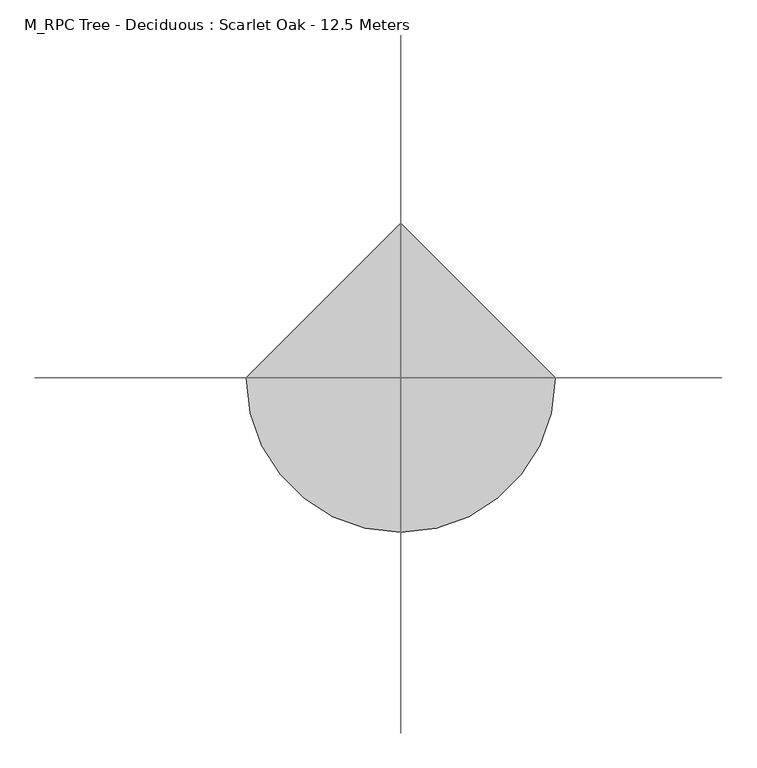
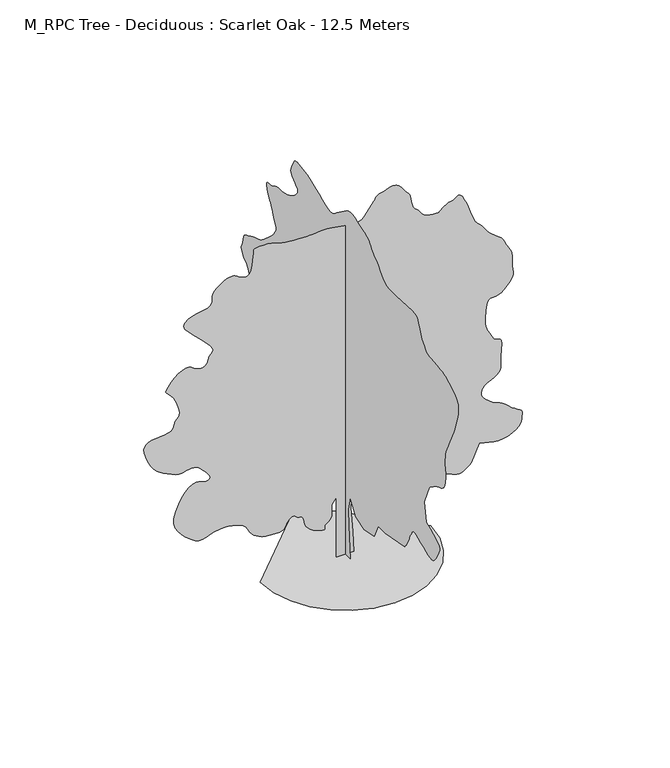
"""IFC4 building model written with IfcOpenShell, lengths in millimetres: geographic element geometry, M_RPC Tree - Deciduous : Scarlet Oak - 12.5 Meters."""

from ifc_helpers import new_model, si_unit, origin, place, context, project, spatial, triangles, source, transform, mapped, element, save


def m_rpc_tree_deciduous_scarlet_oak_12_5_meters_13b38d7d(model_context):
    return source(origin(), model_context, "Body", "Tessellation", [
        triangles([(0.0172504, 306.0074844, 0.0), (0.0172504, -293.5650026, 0.0), (0.0172504, -196.8600042, 1141.1199549), (0.0172504, -177.5184886, 1682.6674953), (0.0172504, -293.5650026, 2185.5349113), (0.0172504, -603.0224945, 1682.6674953), (0.0172504, -1105.8875124, 1527.9400211), (0.0172504, -1686.1174301, 1663.3275421), (0.0172504, -1918.2099495, 2146.8525341), (0.0172504, -2324.3725124, 2146.8525341), (0.0172504, -3446.1498253, 2359.6049549), (0.0172504, -3487.4249222, 2409.394939), (0.0172504, -3527.7000801, 2459.5225479), (0.0172504, -3565.9250725, 2510.3249702), (0.0172504, -3601.0999603, 2562.1500046), (0.0172504, -3632.2248047, 2615.3249565), (0.0172504, -3658.2749588, 2670.2000954), (0.0172504, -3678.2499023, 2727.0748215), (0.0172504, -3697.649881, 2785.6750237), (0.0172504, -3722.1248405, 2845.2748741), (0.0172504, -3750.8248329, 2905.7249634), (0.0172504, -3782.89991, 2966.8500114), (0.0172504, -3817.5248314, 3028.475029), (0.0172504, -3853.8249413, 3090.4500252), (0.0172504, -3890.9999977, 3152.5750122), (0.0172504, -3908.7000801, 3172.6499496), (0.0172504, -3933.1750397, 3188.8498329), (0.0172504, -3971.1750458, 3197.2499016), (0.0172504, -4029.4749756, 3193.9748108), (0.0172504, -4114.8499969, 3175.1500877), (0.0172504, -4234.0499886, 3136.8498093), (0.0172504, -4393.8498276, 3075.2250824), (0.0172504, -4562.5749939, 3002.6998581), (0.0172504, -4706.2499451, 2937.9750298), (0.0172504, -4828.2750549, 2886.4249786), (0.0172504, -4932.0251175, 2853.4999535), (0.0172504, -5020.8999252, 2844.5999153), (0.0172504, -5098.249855, 2865.1248253), (0.0172504, -5167.4996979, 2920.4999336), (0.0172504, -5237.3750839, 3007.7248421), (0.0172504, -5309.5997452, 3113.9000473), (0.0172504, -5377.0996948, 3229.5499649), (0.0172504, -5432.7497864, 3345.1998825), (0.0172504, -5469.4498718, 3451.3750877), (0.0172504, -5480.1248016, 3538.6249947), (0.0172504, -5457.6250122, 3597.424894), (0.0172504, -5402.6498795, 3641.6998077), (0.0172504, -5323.3000717, 3691.0249947), (0.0172504, -5223.6747574, 3744.5999222), (0.0172504, -5107.774855, 3801.5499344), (0.0172504, -4979.7251129, 3861.0500816), (0.0172504, -4843.5499947, 3922.224836), (0.0172504, -4703.3248329, 3984.2498291), (0.0172504, -4587.2749397, 4641.8498062), (0.0172504, -4877.3749649, 5318.7747665), (0.0172504, -4886.5249878, 5331.7001404), (0.0172504, -4900.7247025, 5347.4747589), (0.0172504, -4925.0999588, 5369.0251877), (0.0172504, -4964.6748688, 5399.20009), (0.0172504, -5024.5497025, 5440.8498734), (0.0172504, -5109.8247299, 5496.8999405), (0.0172504, -5225.5246445, 5570.225116), (0.0172504, -5351.0501221, 5636.6501312), (0.0172504, -5462.3497238, 5680.0498077), (0.0172504, -5559.4501923, 5715.3499786), (0.0172504, -5642.3497833, 5757.424736), (0.0172504, -5711.0246613, 5821.1499161), (0.0172504, -5765.4998245, 5921.4001923), (0.0172504, -5805.7496933, 6073.0746552), (0.0172504, -5829.0500153, 6222.0498642), (0.0172504, -5835.7501877, 6317.5748474), (0.0172504, -5830.6249191, 6379.6001312), (0.0172504, -5818.3750854, 6428.1000778), (0.0172504, -5803.7748138, 6483.0246323), (0.0172504, -5791.5499786, 6564.3249023), (0.0172504, -5786.4247101, 6691.9996674), (0.0172504, -5788.2251816, 6832.849791), (0.0172504, -5796.1246994, 6949.6746368), (0.0172504, -5813.8247818, 7056.3751007), (0.0172504, -5845.0496201, 7166.7747574), (0.0172504, -5893.550148, 7294.7750839), (0.0172504, -5963.0249771, 7454.2496521), (0.0172504, -6057.1750443, 7659.049942), (0.0172504, -6146.5748199, 7844.1746887), (0.0172504, -6206.1746704, 7955.8748474), (0.0172504, -6246.4751175, 8024.9497009), (0.0172504, -6277.9999374, 8082.1746964), (0.0172504, -6311.2246536, 8158.3496979), (0.0172504, -6356.599791, 8284.2751511), (0.0172504, -6424.6747055, 8490.6997604), (0.0172504, -6498.0248795, 8729.4997192), (0.0172504, -6547.3747742, 8935.1499573), (0.0172504, -6565.2498459, 9112.3746048), (0.0172504, -6544.199968, 9265.925116), (0.0172504, -6476.8250107, 9400.5250397), (0.0172504, -6355.6498489, 9520.8996689), (0.0172504, -6173.2249374, 9631.8248749), (0.0172504, -5996.2246948, 9723.0001236), (0.0172504, -5879.7998245, 9785.7747803), (0.0172504, -5799.2250916, 9827.2001587), (0.0172504, -5729.799678, 9854.4496582), (0.0172504, -5646.85009, 9874.575174), (0.0172504, -5525.6749283, 9894.699527), (0.0172504, -5341.575119, 9921.9501892), (0.0172504, -5144.0999634, 9943.4244598), (0.0172504, -4990.9500092, 9951.725116), (0.0172504, -4869.5998581, 9962.0244873), (0.0172504, -4767.5499825, 9989.5995483), (0.0172504, -4672.2499855, 10049.6493713), (0.0172504, -4571.2000488, 10157.425351), (0.0172504, -4451.8750648, 10328.0998169), (0.0172504, -4347.6750298, 10515.7499908), (0.0172504, -4286.1000092, 10666.5500885), (0.0172504, -4245.8498497, 10783.8243256), (0.0172504, -4205.5749825, 10871.0003998), (0.0172504, -4143.9999619, 10931.4501984), (0.0172504, -4039.7999268, 10968.5502594), (0.0172504, -3871.650016, 10985.7003754), (0.0172504, -2943.2749969, 10927.6748474), (0.0172504, -2772.1499771, 10930.6746643), (0.0172504, -2632.8250511, 10930.2746887), (0.0172504, -2514.4500092, 10937.3242584), (0.0172504, -2406.244986, 10962.6250397), (0.0172504, -2297.3599171, 11017.0496246), (0.0172504, -2176.9724979, 11111.3752625), (0.0172504, -2034.2549011, 11256.4745453), (0.0172504, -1896.7275398, 11403.0249023), (0.0172504, -1793.7049038, 11502.8746216), (0.0172504, -1717.0749882, 11568.5752625), (0.0172504, -1658.7124168, 11612.6248993), (0.0172504, -1610.5024235, 11647.5250946), (0.0172504, -1564.3199226, 11685.7995026), (0.0172504, -1512.0500027, 11739.9996826), (0.0172504, -1461.8649845, 11803.9992645), (0.0172504, -1420.8125484, 11863.6002777), (0.0172504, -1379.087479, 11919.1503754), (0.0172504, -1326.8724976, 11970.9495392), (0.0172504, -1254.3574471, 12019.4000702), (0.0172504, -1151.7299904, 12064.7996246), (0.0172504, -1009.182514, 12107.4749268), (0.0172504, -849.1549999, 12154.4999634), (0.0172504, -699.9524792, 12206.6002716), (0.0172504, -560.5600064, 12254.6496643), (0.0172504, -429.9675053, 12289.4998627), (0.0172504, -307.1549798, 12302.0246796), (0.0172504, -191.1079934, 12283.0746735), (0.0172504, -80.8134993, 12223.5248199), (0.0172504, 499.4174812, 11798.0252106), (0.0172504, 562.2325061, 11740.8496307), (0.0172504, 623.0199657, 11688.7493225), (0.0172504, 689.217524, 11646.7751404), (0.0172504, 768.2749804, 11620.0500275), (0.0172504, 867.6299623, 11613.6248383), (0.0172504, 994.7275097, 11632.5748444), (0.0172504, 1157.0125168, 11681.9753174), (0.0172504, 1341.1749676, 11755.3243286), (0.0172504, 1526.6899521, 11837.8251068), (0.0172504, 1710.1749733, 11922.0246185), (0.0172504, 1888.2475342, 12000.4500641), (0.0172504, 2057.5249924, 12065.6995697), (0.0172504, 2214.6199093, 12110.3003357), (0.0172504, 2356.1550201, 12126.8249084), (0.0172504, 2484.8875694, 12135.849939), (0.0172504, 2604.4750374, 12156.3742676), (0.0172504, 2712.9248131, 12178.575238), (0.0172504, 2808.1498146, 12192.6743774), (0.0172504, 2888.1748718, 12188.8501923), (0.0172504, 2950.9248207, 12157.2753754), (0.0172504, 2994.400074, 12088.1249451), (0.0172504, 3033.2500282, 12001.2500153), (0.0172504, 3077.8499222, 11921.1246735), (0.0172504, 3119.7499809, 11845.0502472), (0.0172504, 3150.4998482, 11770.3245758), (0.0172504, 3161.6000427, 11694.2745667), (0.0172504, 3144.6249161, 11614.1503876), (0.0172504, 3091.124984, 11527.2498779), (0.0172504, 3009.2500397, 11447.6245056), (0.0172504, 2921.5998665, 11385.2492432), (0.0172504, 2841.4248184, 11331.3502075), (0.0172504, 2781.8749649, 11277.1000305), (0.0172504, 2756.1750801, 11213.7248291), (0.0172504, 2777.4749428, 11132.4251404), (0.0172504, 2859.0249069, 11024.3747589), (0.0172504, 2971.6250107, 10916.724353), (0.0172504, 3077.7999252, 10838.2000763), (0.0172504, 3178.2249001, 10782.3), (0.0172504, 3273.574894, 10742.6745117), (0.0172504, 3364.5248657, 10712.8251709), (0.0172504, 3451.7750633, 10686.4000397), (0.0172504, 3535.9498672, 10656.8995148), (0.0172504, 3620.024968, 10634.1753204), (0.0172504, 3706.4749237, 10626.6746155), (0.0172504, 3795.2750267, 10625.9502411), (0.0172504, 3886.4499847, 10623.5248077), (0.0172504, 3979.9997978, 10610.9499939), (0.0172504, 4075.9250473, 10579.7495728), (0.0172504, 4174.1998627, 10521.5252197), (0.0172504, 4275.775058, 10469.7993073), (0.0172504, 4375.6250679, 10451.2492767), (0.0172504, 4464.9998451, 10446.8995422), (0.0172504, 4535.0999268, 10437.8245148), (0.0172504, 4577.0999794, 10405.075351), (0.0172504, 4582.2249573, 10329.6753021), (0.0172504, 4541.6998146, 10192.7243591), (0.0172504, 4481.7999825, 10048.5994354), (0.0172504, 4432.0748199, 9951.4995483), (0.0172504, 4388.424868, 9882.1247131), (0.0172504, 4346.824791, 9821.224942), (0.0172504, 4303.174839, 9749.4996689), (0.0172504, 4253.4249687, 9647.6750702), (0.0172504, 4193.5498444, 9496.4499985), (0.0172504, 4130.2749275, 9347.6997757), (0.0172504, 4075.8250534, 9253.7496964), (0.0172504, 4034.1999779, 9195.999733), (0.0172504, 4009.500032, 9155.8498581), (0.0172504, 4005.7749687, 9114.7000443), (0.0172504, 4027.0998299, 9053.8996857), (0.0172504, 4077.4999512, 8954.8999146), (0.0172504, 4167.2249977, 8823.6747849), (0.0172504, 4293.1248711, 8684.3501495), (0.0172504, 4439.3499573, 8545.349913), (0.0172504, 4589.9500671, 8415.1497208), (0.0172504, 4729.0750053, 8302.1996384), (0.0172504, 4840.7748734, 8214.9747299), (0.0172504, 4909.1747681, 8161.9000626), (0.0172504, 4969.9001312, 8128.6997635), (0.0172504, 5061.0747986, 8095.1500671), (0.0172504, 5170.5250946, 8060.9248306), (0.0172504, 5286.0750183, 8025.6746567), (0.0172504, 5395.524733, 7989.0751465), (0.0172504, 5486.6999817, 7950.8001572), (0.0172504, 5547.4247635, 7910.4747116), (0.0172504, 5598.275148, 7876.9750122), (0.0172504, 5663.0246841, 7853.2997131), (0.0172504, 5734.1749924, 7830.2999542), (0.0172504, 5804.3247803, 7798.8251312), (0.0172504, 5866.0250839, 7749.7746368), (0.0172504, 5911.8001968, 7673.9746124), (0.0172504, 5934.2499893, 7562.325032), (0.0172504, 5952.6250305, 7450.1749008), (0.0172504, 5984.1998474, 7370.8500916), (0.0172504, 6018.4750809, 7312.1496048), (0.0172504, 6044.9996246, 7261.899765), (0.0172504, 6053.224704, 7207.9501511), (0.0172504, 6032.699794, 7138.074765), (0.0172504, 5972.9249542, 7040.1249298), (0.0172504, 5898.7248322, 6948.3747162), (0.0172504, 5838.7250061, 6893.5251572), (0.0172504, 5788.2001831, 6857.9500031), (0.0172504, 5742.4000717, 6824.0497467), (0.0172504, 5696.6249588, 6774.2498795), (0.0172504, 5646.1001358, 6690.9747299), (0.0172504, 5586.0997284, 6556.5997925), (0.0172504, 5520.6996506, 6421.9998688), (0.0172504, 5460.6998245, 6337.1498154), (0.0172504, 5411.5249191, 6283.0746277), (0.0172504, 5378.6001846, 6240.824881), (0.0172504, 5367.3247101, 6191.4999847), (0.0172504, 5383.09991, 6116.0999359), (0.0172504, 5431.3748703, 5995.7247253), (0.0172504, 5495.5000259, 5864.0496231), (0.0172504, 5555.8748291, 5761.8250488), (0.0172504, 5613.5747955, 5680.5747757), (0.0172504, 5669.5498672, 5611.8249023), (0.0172504, 5724.8749786, 5547.1497803), (0.0172504, 5780.5250702, 5478.0749268), (0.0172504, 5837.5250793, 5396.1496948), (0.0172504, 5903.6751114, 5315.3499756), (0.0172504, 5980.6500641, 5249.4249298), (0.0172504, 6060.324852, 5189.6000931), (0.0172504, 6134.5999695, 5127.0498413), (0.0172504, 6195.3247513, 5053.0247086), (0.0172504, 6234.3996918, 4958.6746536), (0.0172504, 6243.6997055, 4835.2499199), (0.0172504, 6251.5248093, 4738.3250221), (0.0172504, 6280.349794, 4706.349939), (0.0172504, 6313.2251129, 4704.825032), (0.0172504, 6333.2500534, 4699.249791), (0.0172504, 6323.4750687, 4655.0998695), (0.0172504, 6267.0500244, 4537.8750481), (0.0172504, 6146.999794, 4313.0498177), (0.0172504, 6021.4748978, 4060.8748032), (0.0172504, 5945.6998718, 3875.3750793), (0.0172504, 5898.3248566, 3742.6250427), (0.0172504, 5858.0749878, 3648.7999557), (0.0172504, 5803.5998245, 3580.0000854), (0.0172504, 5713.6000854, 3522.3748238), (0.0172504, 5566.7747452, 3462.0500175), (0.0172504, 5397.2496277, 3413.0998077), (0.0172504, 5248.0500137, 3392.5748978), (0.0172504, 5111.0246567, 3390.9999939), (0.0172504, 4978.0746323, 3398.8998024), (0.0172504, 4841.0498566, 3406.7749031), (0.0172504, 4691.8499519, 3405.1999992), (0.0172504, 4522.3498329, 3384.6750893), (0.0172504, 4353.2999771, 3366.3000481), (0.0172504, 4207.2498802, 3370.249807), (0.0172504, 4078.7998718, 3385.7000267), (0.0172504, 3962.5249924, 3401.8249146), (0.0172504, 3853.0249901, 3407.7998405), (0.0172504, 3744.8749054, 3392.799884), (0.0172504, 3632.6500694, 3345.9998337), (0.0172504, 3525.249939, 3296.2499634), (0.0172504, 3436.4248375, 3270.1998093), (0.0172504, 3368.249929, 3253.6249489), (0.0172504, 3322.75009, 3232.3250862), (0.0172504, 3301.9499062, 3192.0499283), (0.0172504, 3307.8748352, 3118.6500481), (0.0172504, 3342.5500443, 2997.8498634), (0.0172504, 3398.4748283, 2869.5248474), (0.0172504, 3465.5748024, 2778.7248665), (0.0172504, 3542.0000793, 2719.2500084), (0.0172504, 3625.8499031, 2684.8000763), (0.0172504, 3715.274968, 2669.1248703), (0.0172504, 3808.4248055, 2665.9500641), (0.0172504, 3903.4248207, 2669.0498749), (0.0172504, 4270.9250633, 2262.8999565), (0.0172504, 4299.7250496, 2217.1674282), (0.0172504, 4327.3498169, 2170.5925095), (0.0172504, 4352.6250183, 2122.3249615), (0.0172504, 4374.3248566, 2071.5174522), (0.0172504, 4391.2999832, 2017.3299168), (0.0172504, 4402.3498901, 1958.9124069), (0.0172504, 4406.2999397, 1895.4199162), (0.0172504, 4405.6249809, 1829.2200325), (0.0172504, 4400.8999786, 1763.6974331), (0.0172504, 4388.0248924, 1699.5299835), (0.0172504, 4362.9999664, 1637.3900265), (0.0172504, 4321.7248695, 1577.9574623), (0.0172504, 4260.1498489, 1521.9075405), (0.0172504, 4174.1998627, 1469.9175453), (0.0172504, 4092.2249245, 1425.7650078), (0.0172504, 4034.5999535, 1391.4249527), (0.0172504, 3985.4250481, 1364.8674168), (0.0172504, 3928.800016, 1344.0599659), (0.0172504, 3848.8499542, 1326.9749622), (0.0172504, 3729.6499626, 1311.5799717), (0.0172504, 3555.2998489, 1295.8475018), (0.0172504, 3356.9750359, 1298.1024513), (0.0172504, 3174.2248535, 1332.8375404), (0.0172504, 3003.6500908, 1392.27243), (0.0172504, 2841.8750816, 1468.6199501), (0.0172504, 2685.525032, 1554.1049938), (0.0172504, 2531.1748604, 1640.9424259), (0.0172504, 2375.4949734, 1721.3500179), (0.0172504, 2236.6674007, 1794.4849434), (0.0172504, 2129.3049133, 1863.5599422), (0.0172504, 2044.6099377, 1926.8850014), (0.0172504, 1973.7875164, 1982.7650208), (0.0172504, 1908.0399307, 2029.5099873), (0.0172504, 1838.5700432, 2065.4300331), (0.0172504, 1756.5824604, 2088.8299129), (0.0172504, 1666.4174698, 2108.5649002), (0.0172504, 1577.6074837, 2133.0375343), (0.0172504, 1489.134977, 2159.8799366), (0.0172504, 1399.9875114, 2186.7200134), (0.0172504, 1309.1449459, 2211.1925022), (0.0172504, 1215.5974583, 2230.9274895), (0.0172504, 1118.3299942, 2243.5575325), (0.0172504, 1018.8625191, 2250.1549496), (0.0172504, 919.3925005, 2253.7074944), (0.0172504, 819.9249527, 2254.7224033), (0.0172504, 720.4574776, 2253.7074944), (0.0172504, 620.9900024, 2251.1700039), (0.0172504, 521.5199839, 2247.6174591), (0.0172504, 422.0525087, 2243.5575325), (0.0172504, 228.6430025, 1953.4425373), (0.0172504, 189.960498, 1508.5999226), (280.4450004, 0.0006008, 0.0092122), (-299.78499, 0.0006008, 0.0092122), (-299.78499, 0.0004756, 2127.5199932), (-454.5149895, 0.0004756, 1914.7698978), (-454.5149895, 0.0005007, 1682.6775238), (-450.962481, 0.0005007, 1628.8274677), (-450.962481, 0.0005007, 1575.1449886), (-458.0674979, 0.0005007, 1521.8024597), (-475.8274967, 0.0005257, 1468.967458), (-507.8000001, 0.0005257, 1416.8100311), (-557.5350094, 0.0005257, 1365.4949947), (-628.5824896, 0.0005257, 1315.1974834), (-684.2375227, 0.0005257, 1262.982502), (-699.6325132, 0.0005257, 1210.0899456), (-696.0799685, 0.0005257, 1162.9524885), (-694.8950117, 0.0005257, 1127.990015), (-717.3950191, 0.0005257, 1111.6374521), (-784.8899546, 0.0005257, 1120.3224598), (-918.6974848, 0.0005257, 1160.4700092), (-1071.3399845, 0.0005257, 1223.0050003), (-1185.4124548, 0.0005257, 1293.6575191), (-1267.3424103, 0.0005257, 1371.0799736), (-1323.5625252, 0.0005257, 1453.9124176), (-1360.49748, 0.0005007, 1540.8049335), (-1384.5749348, 0.0005007, 1630.4049877), (-1402.2250202, 0.0005007, 1721.359901), (-1406.7349194, 0.0005007, 1746.1124599), (-1413.4449749, 0.0005007, 1770.1899147), (-1424.5524364, 0.0005007, 1792.9174519), (-1442.2599312, 0.0005007, 1813.6099388), (-1468.7599125, 0.0005007, 1831.5975037), (-1506.2599491, 0.0005007, 1846.2024261), (-1556.9524944, 0.0005007, 1856.747422), (-1607.6450397, 0.0005007, 1874.1124958), (-1647.509903, 0.0005007, 1903.3224861), (-1682.3024014, 0.0004756, 1934.8999191), (-1717.7700039, 0.0004756, 1959.3724079), (-1759.6674465, 0.0004756, 1967.2674202), (-1813.7424889, 0.0004756, 1949.1099529), (-1885.7500122, 0.0005007, 1895.4274738), (-1949.0724552, 0.0005007, 1820.3199944), (-1984.9925011, 0.0005007, 1746.902528), (-2011.0999191, 0.0005007, 1679.2374722), (-2044.9875309, 0.0005007, 1621.382428), (-2104.2525181, 0.0005007, 1577.402409), (-2206.4824699, 0.0005007, 1551.3499294), (-2369.2750042, 0.0005007, 1547.2900028), (-2549.149926, 0.0005007, 1559.2449417), (-2695.2000229, 0.0005007, 1578.979929), (-2813.8250496, 0.0005007, 1607.1750103), (-2911.4999016, 0.0005007, 1644.5025284), (-2994.6250603, 0.0005007, 1691.6425289), (-3069.5998444, 0.0005007, 1749.2724415), (-3142.9250198, 0.0005007, 1818.0648994), (-3205.1000038, 0.0005007, 1893.5100037), (-3249.7248962, 0.0004756, 1969.2975288), (-3287.549913, 0.0004756, 2043.389954), (-3329.4499718, 0.0004756, 2113.7624027), (-3386.2249947, 0.0004756, 2178.3824409), (-3468.7249008, 0.0004756, 2235.2224308), (-3587.7499031, 0.0004756, 2282.2499382), (-3707.4248657, 0.0004756, 2317.9974655), (-3794.2497986, 0.0004506, 2343.2600224), (-3862.8249733, 0.0004506, 2359.3875263), (-3927.674794, 0.0004506, 2367.7325111), (-4003.3248276, 0.0004506, 2369.6499813), (-4104.3750549, 0.0004506, 2366.4924706), (-4245.3498802, 0.0004506, 2359.6125126), (-4400.3500122, 0.0004506, 2335.1974331), (-4538.1250328, 0.0004756, 2289.8050003), (-4665.0498436, 0.0004756, 2240.3524956), (-4787.5749229, 0.0004756, 2203.7574909), (-4912.1501678, 0.0004756, 2196.9349422), (-5045.1501892, 0.0004756, 2236.7999508), (-5193.0498825, 0.0004506, 2340.272414), (-5347.7997391, 0.0004506, 2478.6475433), (-5490.6747391, 0.0004506, 2615.9999153), (-5612.2498764, 0.0004256, 2758.4499413), (-5703.0251495, 0.0004256, 2912.049868), (-5753.5499725, 0.0004256, 3082.8999046), (-5754.3499237, 0.0004005, 3277.0999695), (-5695.9250015, 0.0004005, 3500.7249825), (-5598.1501556, 0.0003755, 3726.2748779), (-5489.1998291, 0.0003755, 3919.6999901), (-5372.1499969, 0.0003505, 4077.2499664), (-5250.0248932, 0.0003505, 4195.2000343), (-5125.8499146, 0.0003505, 4269.8498383), (-5002.6998734, 0.0003505, 4297.4998947), (-4883.6001663, 0.0003505, 4274.3748528), (-4771.2750458, 0.0003505, 4235.4749016), (-4671.8250114, 0.0003505, 4218.8750427), (-4593.3248611, 0.0003505, 4225.6499199), (-4543.9249695, 0.0003505, 4256.7750549), (-4531.7498405, 0.0003505, 4313.2748039), (-4564.899852, 0.0003505, 4396.1749763), (-4651.4997986, 0.0003254, 4506.4749298), (-4752.500029, 0.0003254, 4617.0998634), (-4829.4749817, 0.0003254, 4702.3498924), (-4891.5496811, 0.0003254, 4765.2748306), (-4947.8747314, 0.0003254, 4808.9247826), (-5007.6001556, 0.0003254, 4836.3248543), (-5079.8248169, 0.0003004, 4850.5498581), (-5173.7248993, 0.0003004, 4854.5999016), (-5270.0248352, 0.0003254, 4845.5248741), (-5349.7751999, 0.0003254, 4824.5999886), (-5422.3998367, 0.0003254, 4801.3249557), (-5497.39991, 0.0003254, 4785.1247818), (-5584.2248428, 0.0003254, 4785.5250481), (-5692.3746368, 0.0003254, 4811.9748871), (-5831.3248764, 0.0003004, 4873.9498833), (-5978.7751785, 0.0003004, 4948.0997177), (-6108.6248108, 0.0003004, 5012.4248611), (-6224.624707, 0.0003004, 5078.4748993), (-6330.4496429, 0.0003004, 5157.6997147), (-6429.8749695, 0.0003004, 5261.5997681), (-6526.574881, 0.0002754, 5401.7249359), (-6624.2997299, 0.0002754, 5589.5750977), (-6705.1000305, 0.0002503, 5784.4998276), (-6749.6996338, 0.0002503, 5941.2001465), (-6759.8001801, 0.0002503, 6064.0746231), (-6737.074823, 0.0002253, 6157.4997345), (-6683.2246216, 0.0002253, 6225.8996292), (-6599.9500534, 0.0002253, 6273.6496216), (-6488.899855, 0.0002253, 6305.1750229), (-6357.7997177, 0.0002253, 6323.2750809), (-6219.2750336, 0.0002253, 6333.9500107), (-6082.3996674, 0.0002253, 6346.2748398), (-5956.3748016, 0.0002253, 6369.4501694), (-5850.3248795, 0.0002253, 6412.5998611), (-5773.3499268, 0.0002253, 6484.8251038), (-5734.5999664, 0.0002003, 6595.2997559), (-5705.9749695, 0.0002003, 6701.9746399), (-5661.749762, 0.0002003, 6771.4500504), (-5614.8497177, 0.0002003, 6825.699646), (-5578.0746368, 0.0002003, 6886.6999924), (-5564.3248947, 0.0001752, 6976.4747452), (-5586.4247086, 0.0001752, 7116.9998886), (-5657.2500366, 0.0001752, 7330.2496628), (-5757.5497284, 0.0001502, 7540.2996323), (-5853.4746872, 0.0001502, 7672.5247009), (-5935.8498917, 0.0001502, 7750.975145), (-5995.5747345, 0.0001252, 7799.6250824), (-6023.4747757, 0.0001252, 7842.5247894), (-6010.4499893, 0.0001252, 7903.7251236), (-5947.3497711, 0.0001252, 8007.1996216), (-5845.6501648, 0.0001252, 8136.3248795), (-5728.0247864, 0.0001001, 8253.9496765), (-5602.2749039, 0.0001001, 8353.3000076), (-5476.1750427, 0.0001001, 8427.6251221), (-5357.5497253, 0.0001001, 8470.1248535), (-5254.1246429, 0.0001001, 8474.0746124), (-5173.7248993, 0.0001001, 8432.6998123), (-5094.9000595, 0.0001001, 8371.00009), (-4997.8001724, 0.0001001, 8322.8501221), (-4892.5751999, 0.0001001, 8294.6500992), (-4789.3748131, 0.0001001, 8292.8496277), (-4698.3748444, 0.0001001, 8323.8750595), (-4629.6999664, 0.0001001, 8394.1248413), (-4593.4998505, 0.0001001, 8510.0497421), (-4560.3248405, 0.0001001, 8620.5749725), (-4508.224823, 7.51e-05, 8686.1000427), (-4458.4999512, 7.51e-05, 8730.2996704), (-4432.4497971, 7.51e-05, 8776.8747345), (-4451.3998032, 7.51e-05, 8849.4999527), (-4536.6498322, 7.51e-05, 8971.8750412), (-4709.5500343, 5.01e-05, 9167.6497192), (-4926.3498825, 5.01e-05, 9388.7995926), (-5120.1496811, 2.5e-05, 9575.0998489), (-5277.4249649, 2.5e-05, 9731.9745758), (-5384.5998184, 2.5e-05, 9864.8246063), (-5428.2000641, 0.0, 9979.0746094), (-5394.6497864, 0.0, 10080.1254181), (-5270.4248108, 0.0, 10173.3743774), (-5104.7500397, 0.0, 10245.2246429), (-4956.3497955, 0.0, 10286.2744629), (-4825.8749107, 0.0, 10308.3742767), (-4714.0000534, -2.5e-05, 10323.3745239), (-4621.3998917, -2.5e-05, 10343.1000641), (-4548.7749641, -2.5e-05, 10379.4245911), (-4496.7749405, -2.5e-05, 10444.1497101), (-4470.8500694, -2.5e-05, 10520.7252686), (-4466.9000198, -2.5e-05, 10587.8246613), (-4471.4000359, -2.5e-05, 10650.1999237), (-4470.8500694, -2.5e-05, 10712.5751862), (-4451.6747864, -5.01e-05, 10779.6745789), (-4400.3500122, -5.01e-05, 10856.2501373), (-4303.3748268, -5.01e-05, 10947.0248291), (-4184.6748047, -5.01e-05, 11036.8495789), (-4076.1250351, -5.01e-05, 11106.7243835), (-3976.0500389, -7.51e-05, 11155.5993073), (-3882.7249214, -7.51e-05, 11182.4999908), (-3794.4750755, -7.51e-05, 11186.3997528), (-3709.6000237, -7.51e-05, 11166.2498199), (-3626.4498665, -5.01e-05, 11121.1002502), (-3540.7248665, -5.01e-05, 11065.9001312), (-3452.3250298, -5.01e-05, 11022.8748505), (-3365.6000908, -5.01e-05, 11001.8249725), (-3284.9500717, -5.01e-05, 11012.5998962), (-3214.7999931, -5.01e-05, 11064.9746063), (-3159.5498772, -7.51e-05, 11168.7996643), (-3123.5750381, -7.51e-05, 11333.8500549), (-3102.0998955, -7.51e-05, 11511.0752838), (-3086.6999634, -0.0001001, 11648.0250641), (-3076.3750122, -0.0001001, 11749.4746857), (-3070.1248123, -0.0001001, 11820.1250244), (-3066.9000092, -0.0001001, 11864.7246277), (-3065.7250809, -0.0001001, 11888.0243683), (-3065.5500916, -0.0001001, 11894.7251221), (-3040.1248993, -0.0001001, 11898.674881), (-2971.0500458, -0.0001001, 11907.37435), (-2869.1498703, -0.0001001, 11916.0494019), (-2745.2748734, -0.0001001, 11920.0003235), (-2610.2249771, -0.0001001, 11914.4750793), (-2474.8323692, -0.0001001, 11894.7251221), (-2349.9349056, -0.0001001, 11856.0495758), (-2235.4099194, -0.0001001, 11813.024295), (-2120.5474537, -0.0001001, 11781.8494537), (-2000.2725277, -0.0001001, 11760.1251984), (-1869.507399, -0.0001001, 11745.5249268), (-1723.1824642, -0.0001001, 11735.6743652), (-1556.2175102, -0.0001001, 11728.174823), (-1363.5400269, -0.0001001, 11720.6752808), (-1177.5749971, -0.0001001, 11719.599765), (-1024.4249702, -0.0001001, 11728.6747925), (-889.5449764, -0.0001001, 11741.475174), (-758.3875025, -0.0001001, 11751.5745575), (-616.4049625, -0.0001001, 11752.5244995), (-449.0450109, -0.0001001, 11737.9253906), (-241.7632409, -0.0001001, 11701.3252991), (-32.2257492, -0.0001001, 11657.8000488), (136.7124946, -0.0001001, 11627.7995544), (271.8174929, -0.0001001, 11613.0248749), (379.8574825, -0.0001001, 11615.1503265), (467.5974758, -0.0001001, 11635.9246399), (541.8025031, -0.0001001, 11676.9744598), (609.2425, -0.0001001, 11739.9996826), (899.3574589, -0.0001252, 12107.4749268), (942.8899761, -0.0001252, 12164.1493744), (977.6249926, -0.0001252, 12217.4496094), (1008.9749685, -0.0001252, 12266.3245331), (1042.3574512, -0.0001252, 12309.7997864), (1083.1825029, -0.0001252, 12346.8498505), (1136.864982, -0.0001252, 12376.4503693), (1208.8149508, -0.0001252, 12397.6002411), (1297.0049892, -0.0001502, 12421.8499237), (1393.3149536, -0.0001502, 12454.2246918), (1494.0224693, -0.0001502, 12483.8752075), (1595.4100307, -0.0001502, 12499.9998047), (1693.7499584, -0.0001502, 12491.7747253), (1785.3224213, -0.0001502, 12448.349469), (1866.4099136, -0.0001252, 12358.9246948), (1938.4149662, -0.0001252, 12256.9251068), (2004.3324543, -0.0001252, 12177.5752991), (2062.8075188, -0.0001252, 12112.7746033), (2112.4850098, -0.0001252, 12054.4246765), (2152.0125389, -0.0001252, 11994.3748535), (2180.0374271, -0.0001001, 11924.5000488), (2195.2049606, -0.0001001, 11836.6995941), (2205.7499565, -0.0001001, 11745.6993347), (2220.3550243, -0.0001001, 11669.9248901), (2238.3424438, -0.0001001, 11606.8252533), (2259.0349308, -7.51e-05, 11553.8749969), (2281.7599972, -7.51e-05, 11508.5242767), (2305.8374519, -7.51e-05, 11468.274408), (2330.5924816, -7.51e-05, 11430.5499664), (2355.6274361, -7.51e-05, 11413.5742584), (2381.6799156, -7.51e-05, 11394.2242767), (2409.760033, -7.51e-05, 11370.1501648), (2440.8873482, -7.51e-05, 11338.9753235), (2476.0724098, -7.51e-05, 11298.3243164), (2516.3248947, -7.51e-05, 11245.8251953), (2562.6749725, -7.51e-05, 11179.1246155), (2631.3748489, -5.01e-05, 11115.7249969), (2728.4750267, -5.01e-05, 11072.3253204), (2839.7749191, -5.01e-05, 11045.1246552), (2951.0748116, -5.01e-05, 11030.4743866), (3048.1749893, -5.01e-05, 11024.6003265), (3116.8748657, -5.01e-05, 11023.8247925), (3142.9250198, -5.01e-05, 11024.4003387), (3156.2750771, -5.01e-05, 11038.3250702), (3192.9998703, -5.01e-05, 11074.2252045), (3247.9750031, -5.01e-05, 11123.3501129), (3316.1499115, -7.51e-05, 11176.8503357), (3392.4249069, -7.51e-05, 11225.9752441), (3471.7750053, -7.51e-05, 11261.8997955), (3549.0749382, -7.51e-05, 11275.824527), (3618.3750687, -7.51e-05, 11292.800235), (3679.549823, -7.51e-05, 11331.0746429), (3736.3498444, -7.51e-05, 11371.7244873), (3792.4499084, -7.51e-05, 11395.8253418), (3851.6000771, -7.51e-05, 11384.3748779), (3917.5248322, -7.51e-05, 11318.4498322), (3993.9248199, -7.51e-05, 11179.1246155), (4065.8750793, -5.01e-05, 11015.4253052), (4119.5500008, -5.01e-05, 10883.1996552), (4160.3748344, -5.01e-05, 10773.6249481), (4193.7498322, -2.5e-05, 10677.9493927), (4225.0999535, -2.5e-05, 10587.3246918), (4259.8498672, -2.5e-05, 10493.0002167), (4303.3748268, -2.5e-05, 10386.1253448), (4348.1000038, 0.0, 10292.3496735), (4386.3749931, 0.0, 10232.749823), (4423.6500435, 0.0, 10191.7744171), (4465.3248253, 0.0, 10153.824408), (4516.799881, 0.0, 10103.3495819), (4583.4998795, 0.0, 10024.7997253), (4670.850071, 0.0, 9902.6002075), (4778.3749031, 2.5e-05, 9766.6003693), (4896.3999664, 2.5e-05, 9652.9247498), (5016.4501968, 2.5e-05, 9555.474884), (5130.0746567, 5.01e-05, 9468.1999786), (5228.8000259, 5.01e-05, 9384.974826), (5304.2000748, 5.01e-05, 9299.6997986), (5347.7997391, 5.01e-05, 9206.3246841), (5382.0249756, 5.01e-05, 9114.7500412), (5429.774968, 7.51e-05, 9032.6498199), (5483.3001892, 7.51e-05, 8950.5495987), (5534.7749542, 7.51e-05, 8858.9749557), (5576.449736, 7.51e-05, 8748.4747238), (5600.5250107, 0.0001001, 8609.5250656), (5599.22509, 0.0001001, 8432.6998123), (5596.5746704, 0.0001001, 8262.7497208), (5611.174942, 0.0001252, 8138.7997284), (5627.1251312, 0.0001252, 8042.949765), (5628.5500443, 0.0001252, 7957.224765), (5599.5000732, 0.0001252, 7863.7496567), (5524.1250229, 0.0001502, 7744.5249573), (5386.474704, 0.0001502, 7581.6750137), (5223.124791, 0.0001502, 7444.9496384), (5081.4247192, 0.0001502, 7390.0750809), (4961.7000504, 0.0001502, 7378.1746445), (4864.3248894, 0.0001502, 7370.3501221), (4789.5997993, 0.0001752, 7327.6498215), (4737.9000481, 0.0001752, 7211.2249512), (4709.5250359, 0.0001752, 6982.1249817), (4698.9248108, 0.0002003, 6728.5997589), (4700.5250038, 0.0002003, 6550.1751846), (4714.6000168, 0.0002253, 6424.8996918), (4741.5748238, 0.0002253, 6330.7246262), (4781.7249893, 0.0002253, 6245.7001648), (4835.3999107, 0.0002253, 6147.7997452), (4902.950148, 0.0002503, 6015.074707), (4980.0250946, 0.0002503, 5899.6497757), (5057.7999985, 0.0002503, 5847.1500732), (5129.7996735, 0.0002503, 5825.7746338), (5189.6250916, 0.0002503, 5803.7248169), (5230.8499008, 0.0002503, 5749.1996567), (5247.0250763, 0.0002754, 5630.3749329), (5231.7498459, 0.0002754, 5415.4996765), (5210.9999496, 0.0003004, 5178.6001831), (5207.8251434, 0.0003004, 5005.3247131), (5211.4499222, 0.0003004, 4881.0997375), (5210.9999496, 0.0003254, 4791.3999802), (5195.6497238, 0.0003254, 4721.6498772), (5154.5999039, 0.0003254, 4657.3000259), (5077.0249878, 0.0003254, 4583.8248596), (4983.2998947, 0.0003254, 4514.9249954), (4900.3997223, 0.0003254, 4468.3499313), (4827.3248222, 0.0003254, 4435.6498924), (4763.0499664, 0.0003505, 4408.3498146), (4706.5499268, 0.0003505, 4378.0249214), (4656.8250549, 0.0003505, 4336.1748596), (4612.8248337, 0.0003505, 4274.3748528), (4577.8749321, 0.0003505, 4202.8248596), (4558.1249748, 0.0003505, 4135.32491), (4557.0000435, 0.0003505, 4068.8498978), (4577.8749321, 0.0003755, 4000.3250107), (4624.1000175, 0.0003755, 3926.7498505), (4699.0998001, 0.0003755, 3845.024897), (4806.2499458, 0.0003755, 3752.1750412), (4919.7997009, 0.0003755, 3670.8000664), (5016.1246353, 0.0003755, 3617.4998314), (5101.5996506, 0.0004005, 3580.1250778), (5182.6999329, 0.0004005, 3546.4748062), (5265.8000931, 0.0004005, 3504.3500519), (5357.374736, 0.0004005, 3441.5748138), (5463.8246338, 0.0004005, 3345.9998337), (5576.8497116, 0.0004005, 3247.2750458), (5681.0497467, 0.0004005, 3176.6249977), (5772.3999847, 0.0004256, 3124.2249985), (5846.8250931, 0.0004256, 3080.3000633), (5900.2747375, 0.0004256, 3035.0249199), (5928.6997467, 0.0004256, 2978.5748772), (5928.0247879, 0.0004256, 2901.1499519), (5916.924884, 0.0004256, 2813.2500847), (5910.1997131, 0.0004506, 2730.7498878), (5898.0748718, 0.0004506, 2651.975045), (5870.7247971, 0.0004506, 2575.2500771), (5818.350087, 0.0004506, 2498.8349739), (5731.1251785, 0.0004506, 2421.0748947), (5599.22509, 0.0004506, 2340.272414), (5441.7248199, 0.0004756, 2274.8624531), (5284.2501297, 0.0004756, 2240.917432), (5126.7498596, 0.0004756, 2233.1924675), (4969.2501709, 0.0004756, 2246.4425308), (4811.7748993, 0.0004756, 2275.4249187), (4654.2749199, 0.0004756, 2314.8975094), (4496.7749405, 0.0004506, 2359.6125126), (4225.9998985, 0.0005007, 1760.0424236), (4159.6498787, 0.0005007, 1702.5250042), (4092.9248817, 0.0005007, 1648.0549278), (4025.5499245, 0.0005007, 1599.675032), (3957.1500298, 0.0005007, 1560.4274277), (3887.3999268, 0.0005007, 1533.3625099), (3815.9499275, 0.0005007, 1521.5225349), (3742.4750519, 0.0005007, 1527.9499043), (3682.5999275, 0.0005007, 1542.5525013), (3644.6999153, 0.0005007, 1554.7899811), (3617.6498222, 0.0005007, 1567.0274609), (3590.2500412, 0.0005007, 1581.6299126), (3551.3248009, 0.0005007, 1600.9724819), (3489.750071, 0.0005007, 1627.4175247), (3394.3500801, 0.0005007, 1663.3374252), (3270.0748169, 0.0005007, 1715.4949974), (3134.2999649, 0.0005007, 1784.5699963), (2994.450071, 0.0005007, 1863.794957), (2857.9999695, 0.0004756, 1946.4024147), (2732.3500809, 0.0004756, 2025.6275208), (2624.9999474, 0.0004756, 2094.7025196), (2543.3499893, 0.0004756, 2146.8624172), (2474.2123489, 0.0004756, 2192.817461), (2400.0074306, 0.0004756, 2246.8925034), (2321.5699219, 0.0004756, 2307.7374813), (2239.7525322, 0.0004506, 2373.9924488), (2155.3950359, 0.0004506, 2444.3074883), (2069.3475266, 0.0004506, 2517.3248337), (1982.4550106, 0.0004506, 2591.6999451), (1963.1124413, 0.0004256, 2881.8249687), (1576.2924477, 0.0004256, 2920.4999336), (880.0149622, 0.0004256, 2862.474987), (415.8325032, 0.0004506, 2611.0499268), (222.421489, 0.0004756, 2146.8624172), (183.7397477, 0.0005007, 1605.3124786), (241.7622416, 0.0005507, 715.6274672), (-2855.9000977, 0.0, 0.0224297), (-2780.4000549, -654.3849844, 0.0224297), (-2565.3750984, -1255.3350037, 0.0224297), (-2228.0499035, -1785.6274899, 0.0224297), (-1785.6274899, -2228.0499035, 0.0224297), (-1255.3350037, -2565.3750984, 0.0224297), (-654.3849844, -2780.4000549, 0.0224297), (0.0001248, -2855.9000977, 0.0224297), (654.3849844, -2780.4000549, 0.0224297), (1255.3350037, -2565.3750984, 0.0224297), (1785.6274899, -2228.0499035, 0.0224297), (2228.0499035, -1785.6274899, 0.0224297), (2565.3750984, -1255.3350037, 0.0224297), (2780.4000549, -654.3849844, 0.0224297), (2855.9000977, 0.0002503, 0.0224297), (-0.0003745, 2855.9000977, 0.0224297)], [[1, 2, 3], [368, 1, 3], [368, 3, 4], [367, 368, 4], [367, 4, 5], [277, 278, 279], [366, 367, 5], [276, 277, 279], [276, 279, 280], [7, 8, 9], [6, 7, 9], [5, 6, 9], [315, 316, 317], [201, 202, 203], [200, 201, 203], [200, 203, 204], [199, 200, 204], [199, 204, 205], [198, 199, 205], [198, 205, 206], [198, 206, 207], [197, 198, 207], [197, 207, 208], [275, 276, 280], [196, 197, 208], [195, 196, 208], [194, 195, 208], [194, 208, 209], [193, 194, 209], [192, 193, 209], [192, 209, 210], [191, 192, 210], [191, 210, 211], [191, 211, 212], [190, 191, 212], [190, 212, 213], [190, 213, 214], [189, 190, 214], [189, 214, 215], [188, 189, 215], [187, 188, 215], [186, 187, 215], [10, 11, 12], [314, 315, 317], [10, 12, 13], [10, 13, 14], [10, 14, 15], [10, 15, 16], [10, 16, 17], [10, 17, 18], [10, 18, 19], [10, 19, 20], [10, 20, 21], [10, 21, 22], [185, 186, 215], [185, 215, 216], [275, 280, 281], [10, 22, 23], [167, 168, 169], [166, 167, 169], [165, 166, 169], [165, 169, 170], [164, 165, 170], [164, 170, 171], [163, 164, 171], [163, 171, 172], [163, 172, 173], [163, 173, 174], [163, 174, 175], [163, 175, 176], [163, 176, 177], [163, 177, 178], [163, 178, 179], [163, 179, 180], [162, 163, 180], [161, 162, 180], [160, 161, 180], [159, 160, 180], [159, 180, 181], [158, 159, 181], [157, 158, 181], [156, 157, 181], [156, 181, 182], [155, 156, 182], [154, 155, 182], [154, 182, 183], [9, 10, 23], [9, 23, 24], [9, 24, 25], [45, 46, 47], [44, 45, 47], [44, 47, 48], [43, 44, 48], [43, 48, 49], [42, 43, 49], [42, 49, 50], [41, 42, 50], [40, 41, 50], [40, 50, 51], [39, 40, 51], [38, 39, 51], [37, 38, 51], [36, 37, 51], [35, 36, 51], [34, 35, 51], [33, 34, 51], [33, 51, 52], [32, 33, 52], [32, 52, 53], [31, 32, 53], [30, 31, 53], [29, 30, 53], [28, 29, 53], [28, 53, 54], [27, 28, 54], [26, 27, 54], [5, 9, 25], [5, 25, 26], [5, 26, 54], [5, 54, 55], [366, 5, 55], [365, 366, 55], [364, 365, 55], [363, 364, 55], [362, 363, 55], [361, 362, 55], [361, 55, 56], [153, 154, 183], [153, 183, 184], [313, 314, 317], [360, 361, 56], [184, 185, 216], [153, 184, 216], [152, 153, 216], [152, 216, 217], [243, 244, 245], [242, 243, 245], [242, 245, 246], [241, 242, 246], [241, 246, 247], [241, 247, 248], [240, 241, 248], [240, 248, 249], [240, 249, 250], [239, 240, 250], [239, 250, 251], [238, 239, 251], [237, 238, 251], [236, 237, 251], [235, 236, 251], [234, 235, 251], [233, 234, 251], [232, 233, 251], [231, 232, 251], [230, 231, 251], [229, 230, 251], [228, 229, 251], [228, 251, 252], [227, 228, 252], [226, 227, 252], [226, 252, 253], [226, 253, 254], [226, 254, 255], [226, 255, 256], [226, 256, 257], [225, 226, 257], [224, 225, 257], [223, 224, 257], [222, 223, 257], [222, 257, 258], [221, 222, 258], [220, 221, 258], [115, 116, 117], [114, 115, 117], [114, 117, 118], [113, 114, 118], [113, 118, 119], [112, 113, 119], [111, 112, 119], [110, 111, 119], [152, 217, 218], [313, 317, 318], [313, 318, 319], [313, 319, 320], [313, 320, 321], [313, 321, 322], [313, 322, 323], [313, 323, 324], [313, 324, 325], [313, 325, 326], [313, 326, 327], [313, 327, 328], [313, 328, 329], [313, 329, 330], [313, 330, 331], [313, 331, 332], [313, 332, 333], [313, 333, 334], [313, 334, 335], [313, 335, 336], [313, 336, 337], [313, 337, 338], [313, 338, 339], [313, 339, 340], [313, 340, 341], [312, 313, 341], [312, 341, 342], [312, 342, 343], [311, 312, 343], [311, 343, 344], [311, 344, 345], [310, 311, 345], [310, 345, 346], [310, 346, 347], [310, 347, 348], [309, 310, 348], [309, 348, 349], [309, 349, 350], [308, 309, 350], [308, 350, 351], [307, 308, 351], [307, 351, 352], [307, 352, 353], [307, 353, 354], [307, 354, 355], [307, 355, 356], [307, 356, 357], [307, 357, 358], [306, 307, 358], [306, 358, 359], [306, 359, 360], [306, 360, 56], [305, 306, 56], [305, 56, 57], [304, 305, 57], [303, 304, 57], [302, 303, 57], [301, 302, 57], [301, 57, 58], [301, 58, 59], [110, 119, 120], [109, 110, 120], [109, 120, 121], [301, 59, 60], [300, 301, 60], [300, 60, 61], [151, 152, 218], [109, 121, 122], [300, 61, 62], [145, 146, 147], [144, 145, 147], [143, 144, 147], [143, 147, 148], [142, 143, 148], [141, 142, 148], [140, 141, 148], [140, 148, 149], [139, 140, 149], [138, 139, 149], [137, 138, 149], [136, 137, 149], [135, 136, 149], [134, 135, 149], [133, 134, 149], [132, 133, 149], [132, 149, 150], [131, 132, 150], [130, 131, 150], [129, 130, 150], [128, 129, 150], [127, 128, 150], [126, 127, 150], [126, 150, 151], [126, 151, 218], [125, 126, 218], [124, 125, 218], [123, 124, 218], [123, 218, 219], [122, 123, 219], [109, 122, 219], [108, 109, 219], [108, 219, 220], [108, 220, 258], [108, 258, 259], [108, 259, 260], [108, 260, 261], [108, 261, 262], [107, 108, 262], [107, 262, 263], [107, 263, 264], [106, 107, 264], [106, 264, 265], [106, 265, 266], [106, 266, 267], [106, 267, 268], [105, 106, 268], [104, 105, 268], [103, 104, 268], [102, 103, 268], [101, 102, 268], [100, 101, 268], [99, 100, 268], [98, 99, 268], [97, 98, 268], [96, 97, 268], [95, 96, 268], [94, 95, 268], [93, 94, 268], [92, 93, 268], [91, 92, 268], [90, 91, 268], [89, 90, 268], [88, 89, 268], [87, 88, 268], [86, 87, 268], [85, 86, 268], [84, 85, 268], [83, 84, 268], [82, 83, 268], [81, 82, 268], [80, 81, 268], [79, 80, 268], [78, 79, 268], [77, 78, 268], [76, 77, 268], [75, 76, 268], [74, 75, 268], [73, 74, 268], [72, 73, 268], [71, 72, 268], [70, 71, 268], [69, 70, 268], [68, 69, 268], [67, 68, 268], [66, 67, 268], [65, 66, 268], [64, 65, 268], [63, 64, 268], [62, 63, 268], [300, 62, 268], [299, 300, 268], [298, 299, 268], [297, 298, 268], [296, 297, 268], [295, 296, 268], [294, 295, 268], [293, 294, 268], [292, 293, 268], [291, 292, 268], [290, 291, 268], [289, 290, 268], [288, 289, 268], [287, 288, 268], [286, 287, 268], [285, 286, 268], [284, 285, 268], [283, 284, 268], [282, 283, 268], [281, 282, 268], [275, 281, 268], [275, 268, 269], [274, 275, 269], [274, 269, 270], [274, 270, 271], [273, 274, 271], [272, 273, 271], [802, 369, 370], [802, 370, 371], [801, 802, 371], [800, 801, 371], [575, 576, 577], [799, 800, 371], [574, 575, 577], [383, 384, 385], [383, 385, 386], [382, 383, 386], [382, 386, 387], [381, 382, 387], [381, 387, 388], [794, 795, 796], [510, 511, 512], [574, 577, 578], [573, 574, 578], [572, 573, 578], [572, 578, 579], [571, 572, 579], [571, 579, 580], [570, 571, 580], [570, 580, 581], [570, 581, 582], [569, 570, 582], [569, 582, 583], [569, 583, 584], [568, 569, 584], [568, 584, 585], [509, 510, 512], [509, 512, 513], [508, 509, 513], [508, 513, 514], [508, 514, 515], [507, 508, 515], [507, 515, 516], [507, 516, 517], [507, 517, 518], [507, 518, 519], [507, 519, 520], [507, 520, 521], [507, 521, 522], [506, 507, 522], [506, 522, 523], [505, 506, 523], [505, 523, 524], [504, 505, 524], [568, 585, 586], [504, 524, 525], [538, 539, 540], [538, 540, 541], [537, 538, 541], [537, 541, 542], [536, 537, 542], [536, 542, 543], [536, 543, 544], [535, 536, 544], [535, 544, 545], [535, 545, 546], [534, 535, 546], [534, 546, 547], [533, 534, 547], [533, 547, 548], [381, 388, 389], [380, 381, 389], [380, 389, 390], [380, 390, 391], [380, 391, 392], [380, 392, 393], [379, 380, 393], [378, 379, 393], [377, 378, 393], [376, 377, 393], [375, 376, 393], [374, 375, 393], [373, 374, 393], [372, 373, 393], [372, 393, 394], [372, 394, 395], [372, 395, 396], [372, 396, 397], [372, 397, 398], [371, 372, 398], [371, 398, 399], [532, 533, 548], [371, 399, 400], [567, 568, 586], [567, 586, 587], [657, 658, 659], [657, 659, 660], [656, 657, 660], [656, 660, 661], [655, 656, 661], [655, 661, 662], [654, 655, 662], [654, 662, 663], [653, 654, 663], [652, 653, 663], [651, 652, 663], [650, 651, 663], [649, 650, 663], [649, 663, 664], [648, 649, 664], [647, 648, 664], [647, 664, 665], [647, 665, 666], [647, 666, 667], [647, 667, 668], [647, 668, 669], [793, 794, 796], [713, 714, 715], [713, 715, 716], [712, 713, 716], [712, 716, 717], [711, 712, 717], [646, 647, 669], [711, 717, 718], [567, 587, 588], [645, 646, 669], [645, 669, 670], [750, 751, 752], [749, 750, 752], [748, 749, 752], [748, 752, 753], [747, 748, 753], [747, 753, 754], [747, 754, 755], [747, 755, 756], [747, 756, 757], [747, 757, 758], [747, 758, 759], [747, 759, 760], [746, 747, 760], [746, 760, 761], [746, 761, 762], [745, 746, 762], [745, 762, 763], [745, 763, 764], [744, 745, 764], [743, 744, 764], [743, 764, 765], [742, 743, 765], [741, 742, 765], [741, 765, 766], [740, 741, 766], [739, 740, 766], [738, 739, 766], [737, 738, 766], [736, 737, 766], [735, 736, 766], [644, 645, 670], [567, 588, 589], [792, 793, 796], [371, 400, 401], [371, 401, 402], [371, 402, 403], [371, 403, 404], [371, 404, 405], [799, 371, 405], [799, 405, 406], [766, 767, 768], [488, 489, 490], [488, 490, 491], [487, 488, 491], [487, 491, 492], [486, 487, 492], [486, 492, 493], [485, 486, 493], [485, 493, 494], [485, 494, 495], [484, 485, 495], [483, 484, 495], [483, 495, 496], [482, 483, 496], [481, 482, 496], [480, 481, 496], [479, 480, 496], [479, 496, 497], [478, 479, 497], [477, 478, 497], [476, 477, 497], [475, 476, 497], [474, 475, 497], [473, 474, 497], [472, 473, 497], [471, 472, 497], [471, 497, 498], [470, 471, 498], [469, 470, 498], [469, 498, 499], [468, 469, 499], [468, 499, 500], [468, 500, 501], [468, 501, 502], [468, 502, 503], [467, 468, 503], [466, 467, 503], [466, 503, 504], [466, 504, 525], [465, 466, 525], [465, 525, 526], [464, 465, 526], [463, 464, 526], [735, 766, 768], [735, 768, 769], [735, 769, 770], [735, 770, 771], [735, 771, 772], [735, 772, 773], [735, 773, 774], [735, 774, 775], [735, 775, 776], [735, 776, 777], [735, 777, 778], [735, 778, 779], [735, 779, 780], [735, 780, 781], [735, 781, 782], [735, 782, 783], [735, 783, 784], [735, 784, 785], [735, 785, 786], [735, 786, 787], [735, 787, 788], [735, 788, 789], [735, 789, 790], [735, 790, 791], [735, 791, 792], [735, 792, 796], [734, 735, 796], [733, 734, 796], [732, 733, 796], [731, 732, 796], [731, 796, 797], [730, 731, 797], [567, 589, 590], [455, 456, 457], [454, 455, 457], [453, 454, 457], [453, 457, 458], [452, 453, 458], [451, 452, 458], [451, 458, 459], [450, 451, 459], [449, 450, 459], [448, 449, 459], [447, 448, 459], [446, 447, 459], [445, 446, 459], [444, 445, 459], [443, 444, 459], [442, 443, 459], [441, 442, 459], [440, 441, 459], [439, 440, 459], [438, 439, 459], [437, 438, 459], [437, 459, 460], [436, 437, 460], [435, 436, 460], [434, 435, 460], [434, 460, 461], [433, 434, 461], [432, 433, 461], [431, 432, 461], [430, 431, 461], [429, 430, 461], [428, 429, 461], [428, 461, 462], [427, 428, 462], [411, 412, 413], [411, 413, 414], [410, 411, 414], [410, 414, 415], [409, 410, 415], [409, 415, 416], [409, 416, 417], [408, 409, 417], [408, 417, 418], [408, 418, 419], [408, 419, 420], [408, 420, 421], [408, 421, 422], [408, 422, 423], [408, 423, 424], [408, 424, 425], [408, 425, 426], [407, 408, 426], [407, 426, 427], [407, 427, 462], [406, 407, 462], [799, 406, 462], [799, 462, 463], [799, 463, 526], [798, 799, 526], [798, 526, 527], [798, 527, 528], [798, 528, 529], [798, 529, 530], [798, 530, 531], [797, 798, 531], [730, 797, 531], [729, 730, 531], [728, 729, 531], [728, 531, 532], [728, 532, 548], [728, 548, 549], [728, 549, 550], [727, 728, 550], [726, 727, 550], [725, 726, 550], [724, 725, 550], [723, 724, 550], [722, 723, 550], [721, 722, 550], [720, 721, 550], [719, 720, 550], [718, 719, 550], [711, 718, 550], [710, 711, 550], [709, 710, 550], [708, 709, 550], [707, 708, 550], [706, 707, 550], [705, 706, 550], [704, 705, 550], [703, 704, 550], [702, 703, 550], [701, 702, 550], [701, 550, 551], [701, 551, 552], [701, 552, 553], [701, 553, 554], [701, 554, 555], [701, 555, 556], [701, 556, 557], [701, 557, 558], [701, 558, 559], [700, 701, 559], [699, 700, 559], [698, 699, 559], [697, 698, 559], [696, 697, 559], [617, 618, 619], [616, 617, 619], [615, 616, 619], [615, 619, 620], [614, 615, 620], [613, 614, 620], [613, 620, 621], [612, 613, 621], [612, 621, 622], [611, 612, 622], [610, 611, 622], [609, 610, 622], [608, 609, 622], [607, 608, 622], [606, 607, 622], [605, 606, 622], [604, 605, 622], [604, 622, 623], [604, 623, 624], [604, 624, 625], [604, 625, 626], [604, 626, 627], [604, 627, 628], [604, 628, 629], [604, 629, 630], [604, 630, 631], [604, 631, 632], [603, 604, 632], [603, 632, 633], [602, 603, 633], [602, 633, 634], [602, 634, 635], [602, 635, 636], [602, 636, 637], [602, 637, 638], [602, 638, 639], [602, 639, 640], [602, 640, 641], [601, 602, 641], [643, 644, 670], [643, 670, 671], [567, 590, 591], [566, 567, 591], [692, 693, 694], [692, 694, 695], [691, 692, 695], [691, 695, 696], [690, 691, 696], [680, 681, 682], [689, 690, 696], [679, 680, 682], [679, 682, 683], [678, 679, 683], [559, 560, 561], [559, 561, 562], [559, 562, 563], [566, 591, 592], [642, 643, 671], [642, 671, 672], [642, 672, 673], [642, 673, 674], [642, 674, 675], [642, 675, 676], [600, 601, 641], [688, 689, 696], [687, 688, 696], [686, 687, 696], [685, 686, 696], [684, 685, 696], [683, 684, 696], [678, 683, 696], [677, 678, 696], [676, 677, 696], [642, 676, 696], [641, 642, 696], [600, 641, 696], [599, 600, 696], [598, 599, 696], [597, 598, 696], [596, 597, 696], [595, 596, 696], [594, 595, 696], [593, 594, 696], [592, 593, 696], [566, 592, 696], [565, 566, 696], [564, 565, 696], [564, 696, 559], [564, 559, 563], [817, 818, 803], [816, 817, 803], [816, 803, 804], [815, 816, 804], [815, 804, 805], [815, 805, 806], [814, 815, 806], [813, 814, 806], [813, 806, 807], [813, 807, 808], [813, 808, 809], [813, 809, 810], [813, 810, 811], [813, 811, 812]], closed=False),
    ])


if __name__ == "__main__":
    model = new_model("IFC4")
    model_context = context("Model", 3, world=origin())
    ifc_project = project(units=[si_unit("LENGTHUNIT", "METRE", prefix="MILLI")], contexts=[model_context])
    site = spatial("IfcSite", under=ifc_project)
    building = spatial("IfcBuilding", under=site)
    placement = place(None, origin())
    m_rpc_tree_deciduous_scarlet_oak_12_5_meters_shape = m_rpc_tree_deciduous_scarlet_oak_12_5_meters_13b38d7d(model_context)
    element("IfcGeographicElement", 1, ObjectType="M_RPC Tree - Deciduous : Scarlet Oak - 12.5 Meters", at=placement, inside=building, context=model_context, shape_type="MappedRepresentation", body=[
        mapped(m_rpc_tree_deciduous_scarlet_oak_12_5_meters_shape, transform((0.0, 0.0, 0.0), x_axis=(1.0, 0.0, 0.0), y_axis=(0.0, 1.0, 0.0), z_axis=(0.0, 0.0, 1.0))),
    ])
    save(model, "model.ifc")
